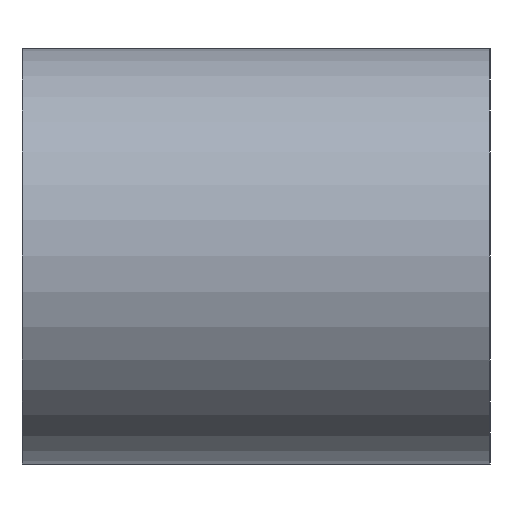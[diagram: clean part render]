
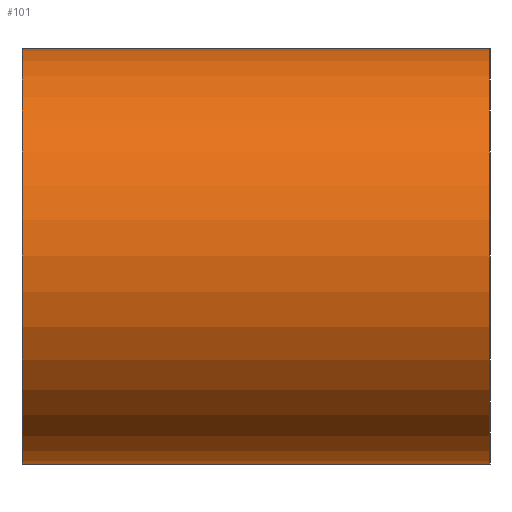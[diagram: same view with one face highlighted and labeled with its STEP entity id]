
A CAD part, left-side view. The second image highlights one B-rep face of the part: STEP entity #101.
In plain terms, the highlighted cylindrical face has radius 2 mm (diameter 4 mm), a partial arc.
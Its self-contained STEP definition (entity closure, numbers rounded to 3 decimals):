
#16=CYLINDRICAL_SURFACE('',#130,2.);
#21=FACE_OUTER_BOUND('',#27,.T.);
#27=EDGE_LOOP('',(#85,#86,#87,#88));
#31=LINE('',#175,#39);
#36=LINE('',#186,#44);
#39=VECTOR('',#145,10.);
#44=VECTOR('',#156,10.);
#45=CIRCLE('',#124,2.);
#48=CIRCLE('',#131,2.);
#49=VERTEX_POINT('',#165);
#50=VERTEX_POINT('',#166);
#53=VERTEX_POINT('',#174);
#56=VERTEX_POINT('',#184);
#57=EDGE_CURVE('',#49,#50,#45,.T.);
#61=EDGE_CURVE('',#53,#50,#31,.T.);
#67=EDGE_CURVE('',#49,#56,#36,.T.);
#68=EDGE_CURVE('',#53,#56,#48,.T.);
#85=ORIENTED_EDGE('',*,*,#67,.T.);
#86=ORIENTED_EDGE('',*,*,#68,.F.);
#87=ORIENTED_EDGE('',*,*,#61,.T.);
#88=ORIENTED_EDGE('',*,*,#57,.F.);
#101=ADVANCED_FACE('',(#21),#16,.T.);
#124=AXIS2_PLACEMENT_3D('',#167,#137,#138);
#130=AXIS2_PLACEMENT_3D('',#187,#157,#158);
#131=AXIS2_PLACEMENT_3D('',#188,#159,#160);
#137=DIRECTION('center_axis',(0.,-1.,0.));
#138=DIRECTION('ref_axis',(0.,0.,-1.));
#145=DIRECTION('',(0.,-1.,0.));
#156=DIRECTION('',(0.,1.,0.));
#157=DIRECTION('center_axis',(0.,1.,0.));
#158=DIRECTION('ref_axis',(0.,0.,-1.));
#159=DIRECTION('center_axis',(0.,1.,0.));
#160=DIRECTION('ref_axis',(0.,0.,-1.));
#165=CARTESIAN_POINT('',(-5.5,-2.25,2.));
#166=CARTESIAN_POINT('',(-5.5,-2.25,-2.));
#167=CARTESIAN_POINT('Origin',(-5.5,-2.25,0.));
#174=CARTESIAN_POINT('',(-5.5,2.25,-2.));
#175=CARTESIAN_POINT('',(-5.5,0.,-2.));
#184=CARTESIAN_POINT('',(-5.5,2.25,2.));
#186=CARTESIAN_POINT('',(-5.5,0.,2.));
#187=CARTESIAN_POINT('Origin',(-5.5,0.,0.));
#188=CARTESIAN_POINT('Origin',(-5.5,2.25,0.));
